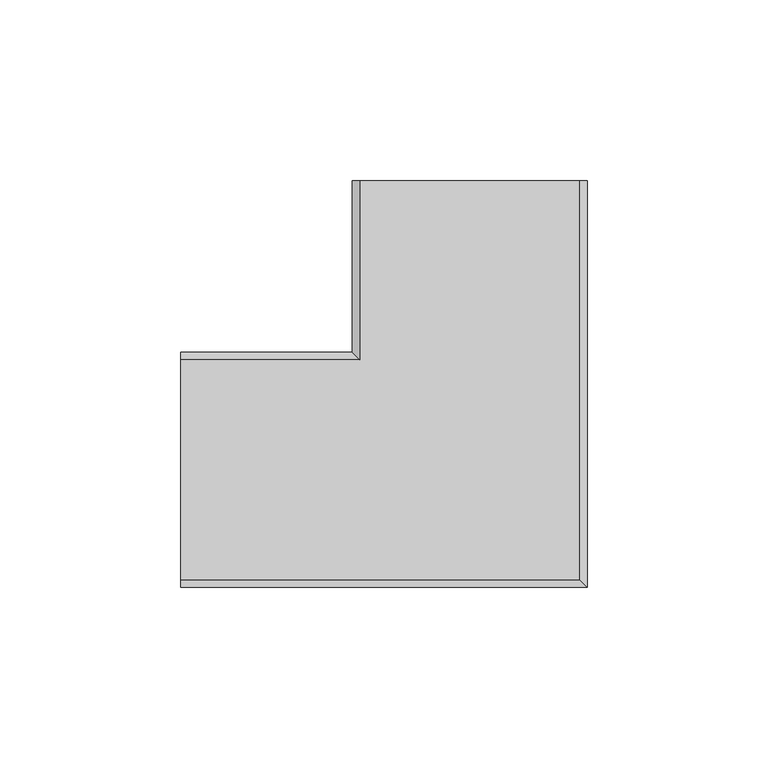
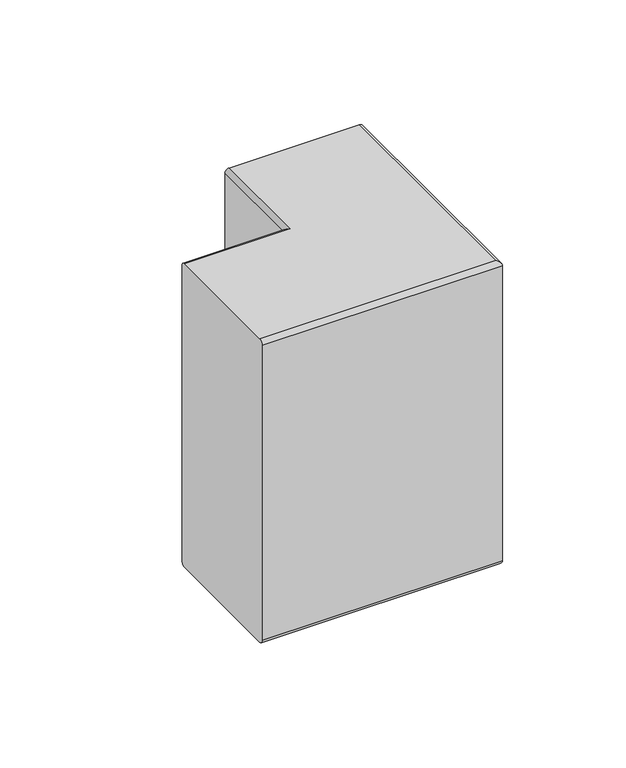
"""IFC4 building model written with IfcOpenShell, lengths in millimetres: duct fitting geometry, Угол плоский 90° - для односекционных кабель-каналов DLP - белый : 65х150мм."""

from ifc_helpers import new_model, si_unit, frame, origin, place, context, project, spatial, circle_curve, ellipse_curve, source, transform, mapped, element, save
from ifc_brep_helpers import plane_surface, cylinder_surface, advanced_brep


def duct_fitting_a4b7bc50(model_context):
    return source(origin(), model_context, "Body", "AdvancedBrep", [
        advanced_brep(
        [(49.4265001, 59.3417726, 71.2223119), (51.4265001, 59.3417726, 69.2223119), (51.4265001, 59.3417726, -76.7776881), (49.4265001, 59.3417726, -78.7776881), (-11.5734999, 59.3417726, -78.7776881), (-13.5734999, 59.3417726, -76.7776881), (-13.5734999, 59.3417726, 69.2223119), (-11.5734999, 59.3417726, 71.2223119), (49.4265001, -51.1582274, 71.2223119), (51.4265001, -53.1582274, 69.2223119), (51.4265001, -53.1582274, -76.7776881), (49.4265001, -51.1582274, -78.7776881), (-61.0734999, -51.1582274, -78.7776881), (-61.0734999, 9.8417726, -78.7776881), (-11.5734999, 9.8417726, -78.7776881), (-13.5734999, 11.8417726, -76.7776881), (-13.5734999, 11.8417726, 69.2223119), (-11.5734999, 9.8417726, 71.2223119), (-61.0734999, 9.8417726, 71.2223119), (-61.0734999, -51.1582274, 71.2223119), (-61.0734999, 11.8417726, 69.2223119), (-61.0734999, 11.8417726, -76.7776881), (-61.0734999, -53.1582274, -76.7776881), (-61.0734999, -53.1582274, 69.2223119)],
        [
            (0, 1, circle_curve(frame((49.4265001, 59.3417726, 69.2223119), z_axis=(0.0, 1.0, 0.0), x_axis=(1.0, 0.0, 0.0)), 2.0)),
            (1, 2),
            (2, 3, circle_curve(frame((49.4265001, 59.3417726, -76.7776881), z_axis=(0.0, 1.0, 0.0), x_axis=(1.0, 0.0, 0.0)), 2.0)),
            (3, 4),
            (4, 5, circle_curve(frame((-11.5734999, 59.3417726, -76.7776881), z_axis=(0.0, 1.0, 0.0), x_axis=(1.0, 0.0, 0.0)), 2.0)),
            (5, 6),
            (6, 7, circle_curve(frame((-11.5734999, 59.3417726, 69.2223119), z_axis=(0.0, 1.0, 0.0), x_axis=(1.0, 0.0, 0.0)), 2.0)),
            (7, 0),
            (0, 8),
            (8, 9, ellipse_curve(frame((49.4265001, -51.1582274, 69.2223119), z_axis=(0.7071067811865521, 0.7071067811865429, 0.0), x_axis=(-0.7071067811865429, 0.7071067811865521, 0.0)), 2.8284271, 2.0)),
            (9, 1),
            (9, 10),
            (10, 2),
            (10, 11, ellipse_curve(frame((49.4265001, -51.1582274, -76.7776881), z_axis=(0.7071067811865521, 0.7071067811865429, 0.0), x_axis=(-0.7071067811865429, 0.7071067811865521, 0.0)), 2.8284271, 2.0)),
            (11, 3),
            (11, 12),
            (12, 13),
            (13, 14),
            (14, 4),
            (14, 15, ellipse_curve(frame((-11.5734999, 9.8417726, -76.7776881), z_axis=(0.7071067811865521, 0.7071067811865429, 0.0), x_axis=(-0.7071067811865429, 0.7071067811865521, 0.0)), 2.8284271, 2.0)),
            (15, 5),
            (15, 16),
            (16, 6),
            (16, 17, ellipse_curve(frame((-11.5734999, 9.8417726, 69.2223119), z_axis=(0.7071067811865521, 0.7071067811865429, 0.0), x_axis=(-0.7071067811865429, 0.7071067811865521, 0.0)), 2.8284271, 2.0)),
            (17, 7),
            (17, 18),
            (18, 19),
            (19, 8),
            (18, 20, circle_curve(frame((-61.0734999, 9.8417726, 69.2223119), z_axis=(-1.0, 0.0, 0.0), x_axis=(0.0, -1.0, 0.0)), 2.0)),
            (20, 21),
            (21, 13, circle_curve(frame((-61.0734999, 9.8417726, -76.7776881), z_axis=(-1.0, 0.0, 0.0), x_axis=(0.0, -1.0, 0.0)), 2.0)),
            (12, 22, circle_curve(frame((-61.0734999, -51.1582274, -76.7776881), z_axis=(-1.0, 0.0, 0.0), x_axis=(0.0, -1.0, 0.0)), 2.0)),
            (22, 23),
            (23, 19, circle_curve(frame((-61.0734999, -51.1582274, 69.2223119), z_axis=(-1.0, 0.0, 0.0), x_axis=(0.0, -1.0, 0.0)), 2.0)),
            (23, 9),
            (22, 10),
            (21, 15),
            (20, 16),
        ],
        [
            plane_surface(frame((18.9265001, 59.3417726, -3.7776881), z_axis=(0.0, 1.0, 0.0), x_axis=(0.0, 0.0, 1.0))),
            cylinder_surface(frame((49.4265001, 59.3417726, 69.2223119), z_axis=(0.0, 1.0, 0.0), x_axis=(1.0, 0.0, 0.0)), 2.0),
            plane_surface(frame((51.4265001, 59.3417726, 69.2223119), z_axis=(1.0, 0.0, 0.0), x_axis=(0.0, -1.0, 0.0))),
            cylinder_surface(frame((49.4265001, 59.3417726, -76.7776881), z_axis=(0.0, 1.0, 0.0), x_axis=(1.0, 0.0, 0.0)), 2.0),
            plane_surface(frame((49.4265001, 59.3417726, -78.7776881), z_axis=(0.0, 0.0, -1.0), x_axis=(0.0, -1.0, 0.0))),
            cylinder_surface(frame((-11.5734999, 59.3417726, -76.7776881), z_axis=(0.0, 1.0, 0.0), x_axis=(1.0, 0.0, 0.0)), 2.0),
            plane_surface(frame((-13.5734999, 59.3417726, -76.7776881), z_axis=(-1.0, 0.0, 0.0), x_axis=(0.0, -1.0, 0.0))),
            cylinder_surface(frame((-11.5734999, 59.3417726, 69.2223119), z_axis=(0.0, 1.0, 0.0), x_axis=(1.0, 0.0, 0.0)), 2.0),
            plane_surface(frame((-11.5734999, 59.3417726, 71.2223119), z_axis=(0.0, 0.0, 1.0), x_axis=(0.0, -1.0, 0.0))),
            plane_surface(frame((-61.0734999, -20.6582274, -3.7776881), z_axis=(-1.0, 0.0, 0.0), x_axis=(0.0, 0.0, 1.0))),
            cylinder_surface(frame((18.9265001, -51.1582274, 69.2223119), z_axis=(1.0, 0.0, 0.0), x_axis=(0.0, -1.0, 0.0)), 2.0),
            plane_surface(frame((51.4265001, -53.1582274, 69.2223119), z_axis=(0.0, -1.0, 0.0), x_axis=(-1.0, 0.0, 0.0))),
            cylinder_surface(frame((18.9265001, -51.1582274, -76.7776881), z_axis=(1.0, 0.0, 0.0), x_axis=(0.0, -1.0, 0.0)), 2.0),
            cylinder_surface(frame((18.9265001, 9.8417726, -76.7776881), z_axis=(1.0, 0.0, 0.0), x_axis=(0.0, -1.0, 0.0)), 2.0),
            plane_surface(frame((-13.5734999, 11.8417726, -76.7776881), z_axis=(0.0, 1.0, 0.0), x_axis=(-1.0, 0.0, 0.0))),
            cylinder_surface(frame((18.9265001, 9.8417726, 69.2223119), z_axis=(1.0, 0.0, 0.0), x_axis=(0.0, -1.0, 0.0)), 2.0),
        ],
        [
            (0, [[1, 2, 3, 4, 5, 6, 7, 8]]),
            (1, [[-1, 9, 10, 11]]),
            (2, [[-2, -11, 12, 13]]),
            (3, [[-3, -13, 14, 15]]),
            (4, [[-4, -15, 16, 17, 18, 19]]),
            (5, [[-5, -19, 20, 21]]),
            (6, [[-6, -21, 22, 23]]),
            (7, [[-7, -23, 24, 25]]),
            (8, [[-8, -25, 26, 27, 28, -9]]),
            (9, [[-27, 29, 30, 31, -17, 32, 33, 34]]),
            (10, [[-10, -28, -34, 35]]),
            (11, [[-12, -35, -33, 36]]),
            (12, [[-14, -36, -32, -16]]),
            (13, [[-20, -18, -31, 37]]),
            (14, [[-22, -37, -30, 38]]),
            (15, [[-24, -38, -29, -26]]),
        ],
    ),
    ])


if __name__ == "__main__":
    model = new_model("IFC4")
    model_context = context("Model", 3, world=origin())
    ifc_project = project(units=[si_unit("LENGTHUNIT", "METRE", prefix="MILLI")], contexts=[model_context])
    site = spatial("IfcSite", under=ifc_project)
    building = spatial("IfcBuilding", under=site)
    placement = place(None, origin())
    duct_fitting_shape = duct_fitting_a4b7bc50(model_context)
    element("IfcDuctFitting", 1, ObjectType="Угол плоский 90° - для односекционных кабель-каналов DLP - белый : 65х150мм", at=placement, inside=building, context=model_context, shape_type="MappedRepresentation", body=[
        mapped(duct_fitting_shape, transform((0.0, 0.0, 0.0), x_axis=(1.0, 0.0, 0.0), y_axis=(0.0, 1.0, 0.0), z_axis=(0.0, 0.0, 1.0))),
    ])
    save(model, "model.ifc")
